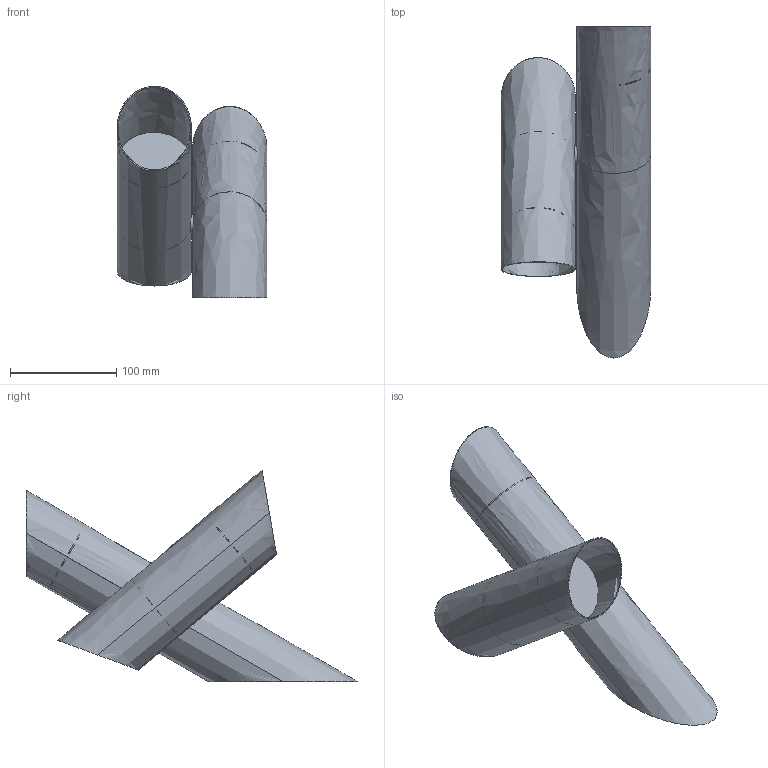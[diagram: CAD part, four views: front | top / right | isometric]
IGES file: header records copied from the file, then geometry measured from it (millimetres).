
Start section: SolidWorks IGES file using analytic representation for surfaces
Global section: file name: C:\Users\tungari.NEMOLIGHTING\Desktop\3D\WALL\3D_TUBES_LARGE_WALL\DEF\3D_TUBES_LARGE_WALL.IGS; native system: SolidWorks 2016; preprocessor: SolidWorks 2016; author: tungari; date: 180302.112703; units: millimetre
Bounding box: 141 x 311.77 x 198.88 mm (x, y, z)
Surface area: 202945.3 mm2 (no closed solid volume)
Topology: 0 solids, 0 shells, 28 faces, 1236 edges, 1236 vertices
Faces by surface type: revolution 16, bspline 12
